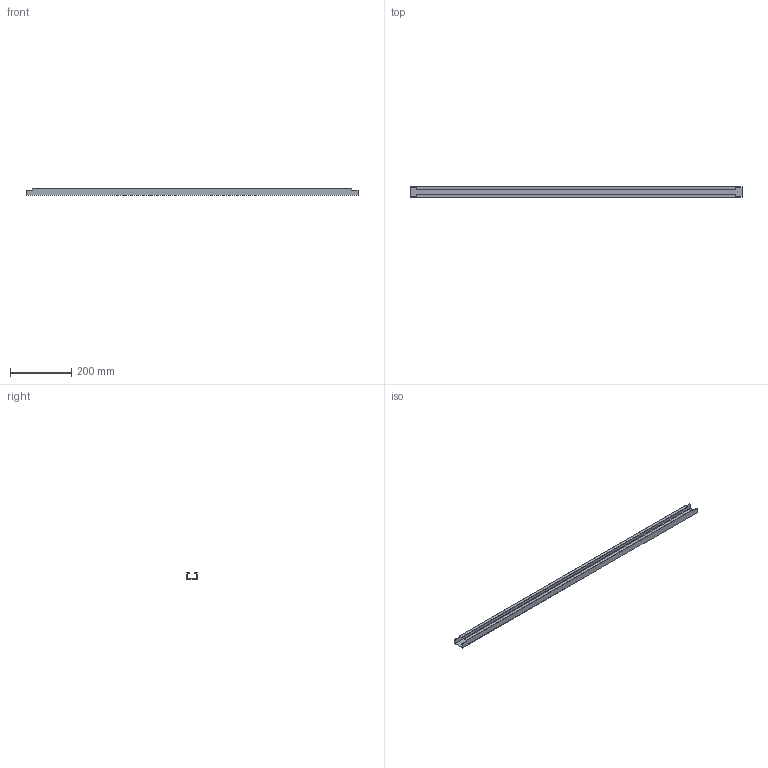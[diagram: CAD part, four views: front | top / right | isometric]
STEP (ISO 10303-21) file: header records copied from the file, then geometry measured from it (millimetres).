
FILE_DESCRIPTION( ( 'STEP AP214' ), '1' );
FILE_NAME( 'p:/temp/worker_229/temp/exporttempdir_1880_117_LMKB5/format_0/MPR1200(0).stp', '2021-03-16T09:51:45', ( 'License CC BY-ND 4.0' ), ( 'CADENAS' ), ' ', 'PARTsolutions', ' ' );
FILE_SCHEMA( ( 'AUTOMOTIVE_DESIGN { 1 0 10303 214 1 1 1 1 }' ) );
Length unit declared in the file: millimetre
Products named in the file (1): _MPR1200(0)
Bounding box: 1082 x 35 x 21 mm (x, y, z)
Volume: 192760 mm3; surface area: 197448 mm2
Topology: 1 solids, 1 shells, 22 faces, 60 edges, 40 vertices
Faces by surface type: plane 22
Entity records: 876 total; most frequent: CARTESIAN_POINT 123, ORIENTED_EDGE 120, DIRECTION 106, EDGE_CURVE 60, LINE 60, VECTOR 60, VERTEX_POINT 40, AXIS2_PLACEMENT_3D 23
